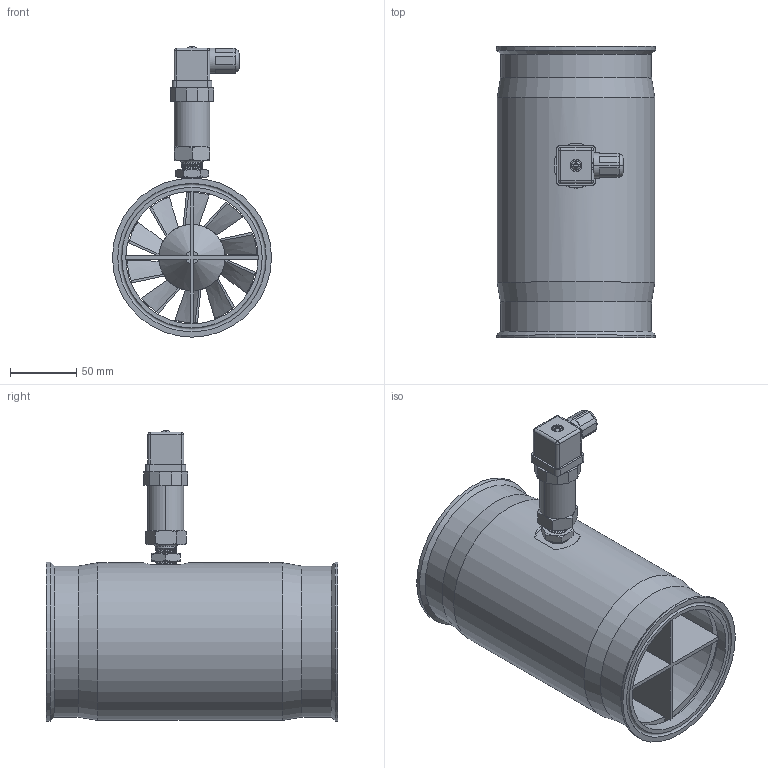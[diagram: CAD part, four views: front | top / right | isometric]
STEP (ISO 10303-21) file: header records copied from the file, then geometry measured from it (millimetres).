
FILE_DESCRIPTION( (''), '2;1');
FILE_NAME( 'QTKB_DN100_tri-clamp_DIN-plug.step', '2024-10-14T08:09:48+08:00', (''), (''), '', '', '');
FILE_SCHEMA (('AUTOMOTIVE_DESIGN { 1 0 10303 214 3 1 1 1 }'));
Length unit declared in the file: millimetre
Products named in the file (1): QTKB DN100_tri-clamp_DIN-plug
Bounding box: 120 x 220 x 219 mm (x, y, z)
Volume: 960513.8 mm3; surface area: 269567.8 mm2
Topology: 8 solids, 9 shells, 484 faces, 1306 edges, 859 vertices
Faces by surface type: plane 280, cylinder 97, cone 59, bspline 38, torus 6, sphere 4
Full cylindrical faces by diameter (mm): 6 x2, 16.5 x1, 45 x1, 50 x2, 100 x3, 110 x2, 114 x2, 119 x1, 120 x2
Entity records: 17858 total; most frequent: CARTESIAN_POINT 6182, ORIENTED_EDGE 2514, DIRECTION 2187, EDGE_CURVE 1257, VERTEX_POINT 842, AXIS2_PLACEMENT_3D 734, LINE 719, VECTOR 719
